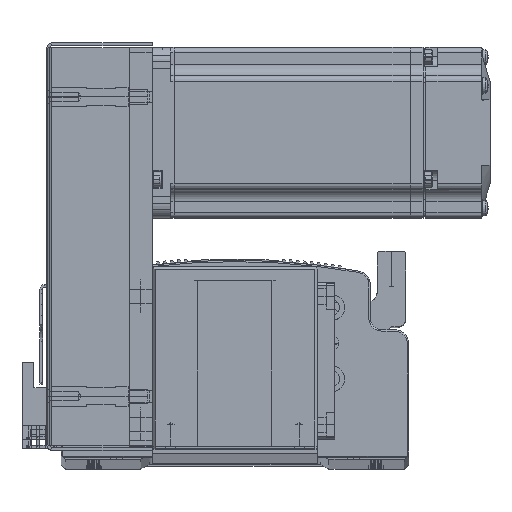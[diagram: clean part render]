
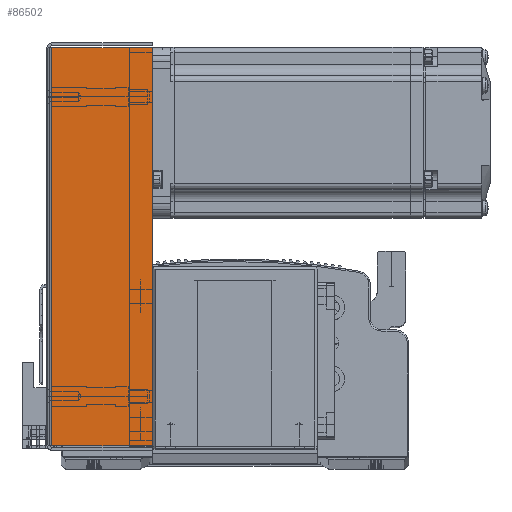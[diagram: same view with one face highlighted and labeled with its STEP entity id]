
A CAD part, top view. The second image highlights one B-rep face of the part: STEP entity #86502.
In plain terms, the highlighted planar face has unit normal (0, 0, 1) as drawn and (0, 0, -1) by its records, which use the part's own axes.
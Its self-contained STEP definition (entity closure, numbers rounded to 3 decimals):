
#5750 = CARTESIAN_POINT ( 'NONE',  ( 69.793, 36., -33.5 ) ) ;
#5752 = CARTESIAN_POINT ( 'NONE',  ( 69.793, 0.737, -33.5 ) ) ;
#5877 = CARTESIAN_POINT ( 'NONE',  ( -69.793, 0.737, -33.5 ) ) ;
#5920 = CARTESIAN_POINT ( 'NONE',  ( -69.793, 36., -33.5 ) ) ;
#18025 = CARTESIAN_POINT ( 'NONE',  ( 0., 36., -33.5 ) ) ;
#18030 = DIRECTION ( 'NONE',  ( 1., 0., 0. ) ) ;
#18085 = EDGE_LOOP ( 'NONE', ( #70626, #70634, #70627, #70617 ) ) ;
#18188 = CARTESIAN_POINT ( 'NONE',  ( -69.793, 0., -33.5 ) ) ;
#18193 = DIRECTION ( 'NONE',  ( 0., 1., 0. ) ) ;
#18458 = CARTESIAN_POINT ( 'NONE',  ( 71.5, 0.737, -33.5 ) ) ;
#18478 = DIRECTION ( 'NONE',  ( 1., 0., 0. ) ) ;
#18504 = CARTESIAN_POINT ( 'NONE',  ( 69.793, 0., -33.5 ) ) ;
#18518 = DIRECTION ( 'NONE',  ( 0., 1., 0. ) ) ;
#25095 = LINE ( 'NONE', #18025, #25097 ) ;
#25097 = VECTOR ( 'NONE', #18030, 1000. ) ;
#25209 = VECTOR ( 'NONE', #18193, 1000. ) ;
#25213 = LINE ( 'NONE', #18188, #25209 ) ;
#25248 = LINE ( 'NONE', #18504, #25266 ) ;
#25249 = LINE ( 'NONE', #18458, #25261 ) ;
#25261 = VECTOR ( 'NONE', #18478, 1000. ) ;
#25266 = VECTOR ( 'NONE', #18518, 1000. ) ;
#70617 = ORIENTED_EDGE ( 'NONE', *, *, #72027, .F. ) ;
#70626 = ORIENTED_EDGE ( 'NONE', *, *, #72030, .F. ) ;
#70627 = ORIENTED_EDGE ( 'NONE', *, *, #71977, .T. ) ;
#70634 = ORIENTED_EDGE ( 'NONE', *, *, #71982, .T. ) ;
#71977 = EDGE_CURVE ( 'NONE', #78515, #78407, #25095, .T. ) ;
#71982 = EDGE_CURVE ( 'NONE', #78469, #78515, #25213, .T. ) ;
#72027 = EDGE_CURVE ( 'NONE', #78442, #78407, #25248, .T. ) ;
#72030 = EDGE_CURVE ( 'NONE', #78469, #78442, #25249, .T. ) ;
#76987 = PLANE ( 'NONE',  #87835 ) ;
#77012 = CARTESIAN_POINT ( 'NONE',  ( 0., 0., -33.5 ) ) ;
#77070 = DIRECTION ( 'NONE',  ( 0., 0., 1. ) ) ;
#77077 = DIRECTION ( 'NONE',  ( 0., -1., 0. ) ) ;
#78407 = VERTEX_POINT ( 'NONE', #5750 ) ;
#78442 = VERTEX_POINT ( 'NONE', #5752 ) ;
#78469 = VERTEX_POINT ( 'NONE', #5877 ) ;
#78515 = VERTEX_POINT ( 'NONE', #5920 ) ;
#80352 = FACE_OUTER_BOUND ( 'NONE', #18085, .T. ) ;
#86502 = ADVANCED_FACE ( 'NONE', ( #80352 ), #76987, .F. ) ;
#87835 = AXIS2_PLACEMENT_3D ( 'NONE', #77012, #77070, #77077 ) ;
